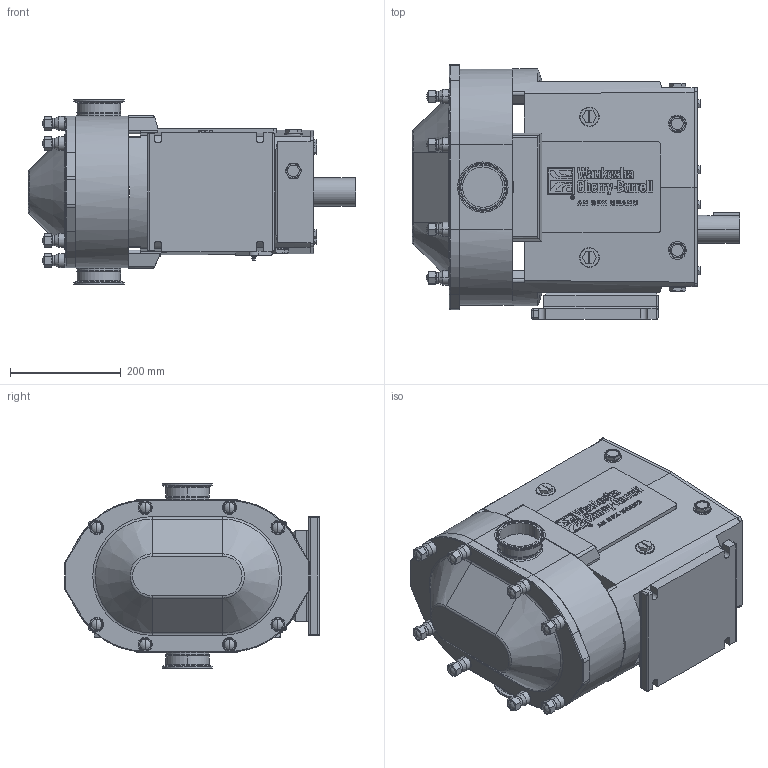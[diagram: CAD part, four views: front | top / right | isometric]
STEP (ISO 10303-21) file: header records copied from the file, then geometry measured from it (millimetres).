
FILE_DESCRIPTION (( 'STEP AP203' ), '1' );
FILE_NAME ('Joined_180_U2_Lower Shaft.STEP', '2008-03-06T12:08:39', ( '' ), ( '' ), 'SwSTEP 2.0', 'SolidWorks 2006233', '' );
FILE_SCHEMA (( 'CONFIG_CONTROL_DESIGN' ));
Length unit declared in the file: inch
Products named in the file (1): Joined_180_U2_Lower Shaft
Bounding box: 591.06 x 459.49 x 332.94 mm (x, y, z)
Volume: 41769803.7 mm3; surface area: 1132804.1 mm2
Topology: 1 solids, 23 shells, 1532 faces, 3795 edges, 2382 vertices
Faces by surface type: plane 753, cone 313, cylinder 285, bspline 103, torus 58, sphere 20
Entity records: 47547 total; most frequent: CARTESIAN_POINT 12243, ORIENTED_EDGE 7462, DIRECTION 6932, EDGE_CURVE 3731, VERTEX_POINT 2382, AXIS2_PLACEMENT_3D 2371, VECTOR 2190, LINE 2190
